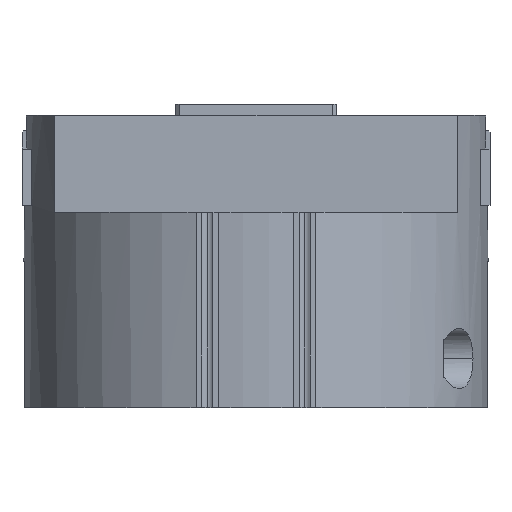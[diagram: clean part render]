
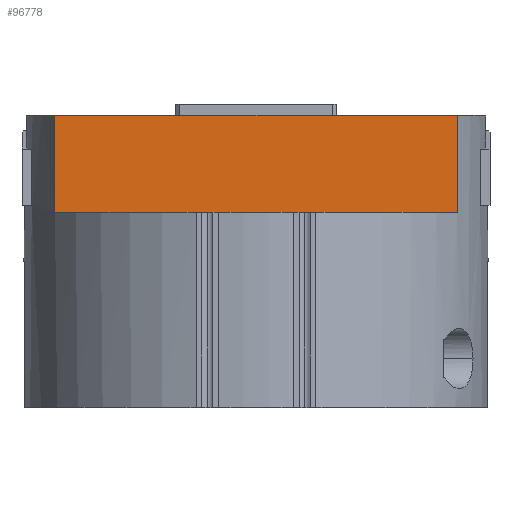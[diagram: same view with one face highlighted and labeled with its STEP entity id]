
A CAD part, top view. The second image highlights one B-rep face of the part: STEP entity #96778.
In plain terms, the highlighted planar face has unit normal (0, 0, 1).
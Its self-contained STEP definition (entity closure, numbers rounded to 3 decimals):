
#3219 = EDGE_CURVE ( 'NONE', #70502, #32163, #64468, .T. ) ;
#4263 = CARTESIAN_POINT ( 'NONE',  ( 53.694, 52., 31. ) ) ;
#6046 = CARTESIAN_POINT ( 'NONE',  ( -53.694, 52., 31. ) ) ;
#6467 = DIRECTION ( 'NONE',  ( 0., -1., 0. ) ) ;
#8056 = VERTEX_POINT ( 'NONE', #6046 ) ;
#9716 = EDGE_CURVE ( 'NONE', #32163, #39610, #58380, .T. ) ;
#10869 = LINE ( 'NONE', #21203, #28693 ) ;
#15899 = EDGE_CURVE ( 'NONE', #8056, #70502, #10869, .T. ) ;
#19008 = PLANE ( 'NONE',  #23098 ) ;
#20484 = VECTOR ( 'NONE', #6467, 1000. ) ;
#21203 = CARTESIAN_POINT ( 'NONE',  ( -53.694, 78., 31. ) ) ;
#23006 = ORIENTED_EDGE ( 'NONE', *, *, #15899, .F. ) ;
#23098 = AXIS2_PLACEMENT_3D ( 'NONE', #56738, #71989, #26671 ) ;
#26671 = DIRECTION ( 'NONE',  ( -1., 0., 0. ) ) ;
#28693 = VECTOR ( 'NONE', #42747, 1000. ) ;
#30505 = CARTESIAN_POINT ( 'NONE',  ( 0., 52., 31. ) ) ;
#32163 = VERTEX_POINT ( 'NONE', #48555 ) ;
#32350 = ORIENTED_EDGE ( 'NONE', *, *, #3219, .F. ) ;
#39610 = VERTEX_POINT ( 'NONE', #4263 ) ;
#42747 = DIRECTION ( 'NONE',  ( 0., 1., 0. ) ) ;
#44214 = CARTESIAN_POINT ( 'NONE',  ( 53.694, 78., 31. ) ) ;
#44347 = VECTOR ( 'NONE', #57889, 1000. ) ;
#48555 = CARTESIAN_POINT ( 'NONE',  ( 53.694, 78., 31. ) ) ;
#52603 = EDGE_CURVE ( 'NONE', #39610, #8056, #87403, .T. ) ;
#55170 = ORIENTED_EDGE ( 'NONE', *, *, #52603, .F. ) ;
#56045 = CARTESIAN_POINT ( 'NONE',  ( -53.694, 78., 31. ) ) ;
#56738 = CARTESIAN_POINT ( 'NONE',  ( -53.694, 52., 31. ) ) ;
#57889 = DIRECTION ( 'NONE',  ( 1., 0., 0. ) ) ;
#58380 = LINE ( 'NONE', #44214, #20484 ) ;
#64468 = LINE ( 'NONE', #66514, #44347 ) ;
#66514 = CARTESIAN_POINT ( 'NONE',  ( 0., 78., 31. ) ) ;
#70502 = VERTEX_POINT ( 'NONE', #56045 ) ;
#71989 = DIRECTION ( 'NONE',  ( 0., 0., -1. ) ) ;
#73117 = ORIENTED_EDGE ( 'NONE', *, *, #9716, .F. ) ;
#83405 = DIRECTION ( 'NONE',  ( -1., 0., 0. ) ) ;
#85859 = FACE_OUTER_BOUND ( 'NONE', #93887, .T. ) ;
#87403 = LINE ( 'NONE', #30505, #89815 ) ;
#89815 = VECTOR ( 'NONE', #83405, 1000. ) ;
#93887 = EDGE_LOOP ( 'NONE', ( #23006, #55170, #73117, #32350 ) ) ;
#96778 = ADVANCED_FACE ( 'NONE', ( #85859 ), #19008, .F. ) ;
